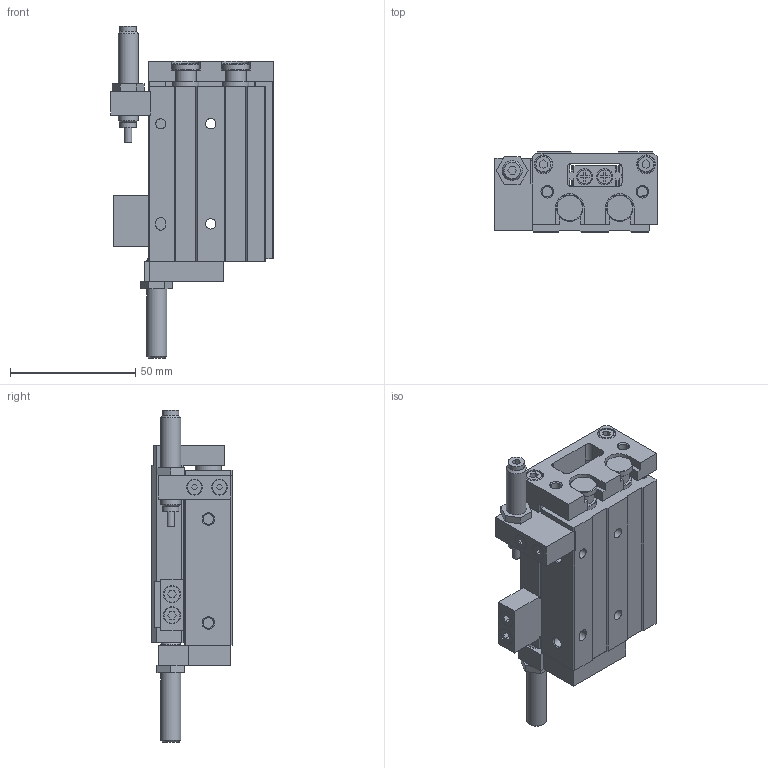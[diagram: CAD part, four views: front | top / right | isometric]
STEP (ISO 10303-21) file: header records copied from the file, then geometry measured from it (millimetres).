
FILE_DESCRIPTION( ( 'STEP AP214' ), '1' );
FILE_NAME( 'C:/Users/EMC02301/Desktop/ELS图纸/ELS12X30-S-B.stp', '2026-08-05T05:51:57', ( 'License CC BY-ND 4.0' ), ( 'CADENAS' ), ' ', 'PARTsolutions', ' ' );
FILE_SCHEMA( ( 'AUTOMOTIVE_DESIGN { 1 0 10303 214 1 1 1 1 }' ) );
Length unit declared in the file: millimetre
Products named in the file (6): ELS12X30-S-B(0)(); _ELS12X30-S-B(HX-07)(HX-07-1)(0-body); _ELS12X30-S-B(0-rod); _FJ-ELS12-B; _FJ-ELS12-B-(BS); _FJ-ELS12-B-(BF)
Assembly tree (5 placements, depth 2):
  ELS12X30-S-B(0)()
    _ELS12X30-S-B(HX-07)(HX-07-1)(0-body)
    _ELS12X30-S-B(0-rod)
    _FJ-ELS12-B
    _FJ-ELS12-B-(BS)
    _FJ-ELS12-B-(BF)
Bounding box: 65 x 32 x 132.7 mm (x, y, z)
Volume: 115825.3 mm3; surface area: 50145.3 mm2
Topology: 5 solids, 5 shells, 566 faces, 1368 edges, 899 vertices
Faces by surface type: plane 434, cylinder 102, cone 28, torus 2
Full cylindrical faces by diameter (mm): 2.9 x2, 3.242 x12, 4 x2, 4.134 x6, 4.2 x2, 5.5 x8, 5.933 x2, 6 x5, 6.333 x2, 6.433 x2, 6.5 x12, 6.6 x2, 6.833 x2, 7 x2, 7.5 x6, 8 x4, 9 x4, 10.5 x6, 12 x4, 15.1 x2
Entity records: 20338 total; most frequent: CARTESIAN_POINT 2696, DIRECTION 2624, ORIENTED_EDGE 2476, EDGE_CURVE 1238, LINE 996, VECTOR 996, VERTEX_POINT 886, AXIS2_PLACEMENT_3D 814
